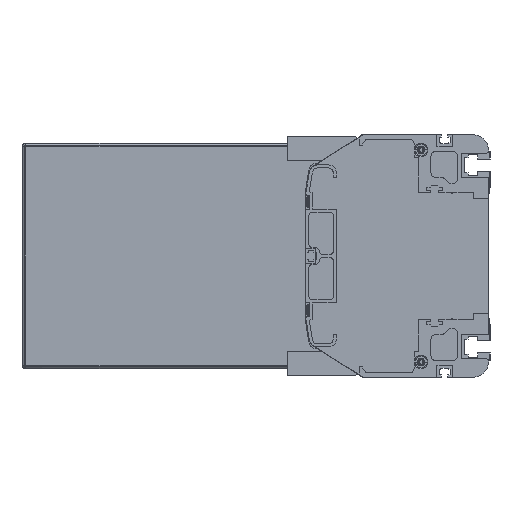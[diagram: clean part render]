
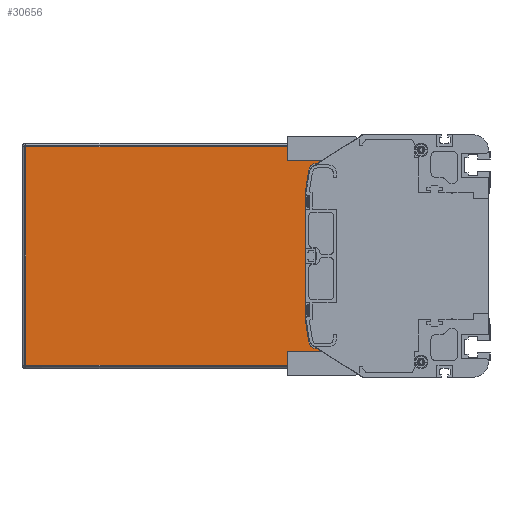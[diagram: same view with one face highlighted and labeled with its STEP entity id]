
A CAD part, left-side view. The second image highlights one B-rep face of the part: STEP entity #30656.
In plain terms, the highlighted planar face has unit normal (-1, 0, 0).
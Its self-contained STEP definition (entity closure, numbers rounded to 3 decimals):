
#726=DIRECTION('',(0.,-1.,0.));
#727=VECTOR('',#726,220.5);
#728=CARTESIAN_POINT('',(986.5,306.5,-72.));
#729=LINE('',#728,#727);
#5154=DIRECTION('',(0.,-1.,0.));
#5155=VECTOR('',#5154,28.728);
#5156=CARTESIAN_POINT('',(986.5,114.728,61.));
#5157=LINE('',#5156,#5155);
#5200=DIRECTION('',(0.,1.,0.));
#5201=VECTOR('',#5200,28.728);
#5202=CARTESIAN_POINT('',(986.5,86.,-61.));
#5203=LINE('',#5202,#5201);
#5213=DIRECTION('',(0.,0.,-1.));
#5214=VECTOR('',#5213,11.);
#5215=CARTESIAN_POINT('',(986.5,86.,-61.));
#5216=LINE('',#5215,#5214);
#5222=DIRECTION('',(0.,0.,-1.));
#5223=VECTOR('',#5222,11.);
#5224=CARTESIAN_POINT('',(986.5,86.,72.));
#5225=LINE('',#5224,#5223);
#11244=CARTESIAN_POINT('',(986.5,114.728,56.));
#11245=DIRECTION('',(-1.,0.,0.));
#11246=DIRECTION('',(0.,0.,1.));
#11247=AXIS2_PLACEMENT_3D('',#11244,#11245,#11246);
#11249=DIRECTION('',(0.,0.156,-0.988));
#11250=VECTOR('',#11249,14.963);
#11251=CARTESIAN_POINT('',(986.5,119.666,56.78));
#11252=LINE('',#11251,#11250);
#11253=DIRECTION('',(0.,-0.156,-0.988));
#11254=VECTOR('',#11253,14.963);
#11255=CARTESIAN_POINT('',(986.5,122.,-42.));
#11256=LINE('',#11255,#11254);
#11257=CARTESIAN_POINT('',(986.5,114.728,-56.));
#11258=DIRECTION('',(-1.,0.,0.));
#11259=DIRECTION('',(0.,0.988,-0.156));
#11260=AXIS2_PLACEMENT_3D('',#11257,#11258,#11259);
#11266=DIRECTION('',(0.,0.,-1.));
#11267=VECTOR('',#11266,144.);
#11268=CARTESIAN_POINT('',(986.5,306.5,72.));
#11269=LINE('',#11268,#11267);
#11356=DIRECTION('',(0.,1.,0.));
#11357=VECTOR('',#11356,220.5);
#11358=CARTESIAN_POINT('',(986.5,86.,72.));
#11359=LINE('',#11358,#11357);
#11647=DIRECTION('',(0.,0.,1.));
#11648=VECTOR('',#11647,84.);
#11649=CARTESIAN_POINT('',(986.5,122.,-42.));
#11650=LINE('',#11649,#11648);
#13610=CARTESIAN_POINT('',(986.5,306.5,-72.));
#13611=CARTESIAN_POINT('',(986.5,86.,-72.));
#13612=VERTEX_POINT('',#13610);
#13613=VERTEX_POINT('',#13611);
#13614=CARTESIAN_POINT('',(986.5,86.,-61.));
#13615=VERTEX_POINT('',#13614);
#13616=CARTESIAN_POINT('',(986.5,114.728,-61.));
#13617=VERTEX_POINT('',#13616);
#13618=CARTESIAN_POINT('',(986.5,119.666,-56.78));
#13619=VERTEX_POINT('',#13618);
#13620=CARTESIAN_POINT('',(986.5,122.,-42.));
#13621=VERTEX_POINT('',#13620);
#13622=CARTESIAN_POINT('',(986.5,122.,42.));
#13623=VERTEX_POINT('',#13622);
#13624=CARTESIAN_POINT('',(986.5,119.666,56.78));
#13625=VERTEX_POINT('',#13624);
#13626=CARTESIAN_POINT('',(986.5,114.728,61.));
#13627=VERTEX_POINT('',#13626);
#13628=CARTESIAN_POINT('',(986.5,86.,61.));
#13629=VERTEX_POINT('',#13628);
#13630=CARTESIAN_POINT('',(986.5,86.,72.));
#13631=VERTEX_POINT('',#13630);
#13632=CARTESIAN_POINT('',(986.5,306.5,72.));
#13633=VERTEX_POINT('',#13632);
#30630=CARTESIAN_POINT('',(986.5,196.25,0.));
#30631=DIRECTION('',(1.,0.,0.));
#30632=DIRECTION('',(0.,0.,-1.));
#30633=AXIS2_PLACEMENT_3D('',#30630,#30631,#30632);
#30634=PLANE('',#30633);
#30635=ORIENTED_EDGE('',*,*,#17567,.F.);
#30637=ORIENTED_EDGE('',*,*,#30636,.F.);
#30639=ORIENTED_EDGE('',*,*,#30638,.F.);
#30640=ORIENTED_EDGE('',*,*,#22288,.T.);
#30641=ORIENTED_EDGE('',*,*,#22195,.F.);
#30643=ORIENTED_EDGE('',*,*,#30642,.T.);
#30645=ORIENTED_EDGE('',*,*,#30644,.T.);
#30647=ORIENTED_EDGE('',*,*,#30646,.F.);
#30649=ORIENTED_EDGE('',*,*,#30648,.T.);
#30651=ORIENTED_EDGE('',*,*,#30650,.T.);
#30652=ORIENTED_EDGE('',*,*,#22246,.F.);
#30653=ORIENTED_EDGE('',*,*,#22262,.T.);
#30654=EDGE_LOOP('',(#30635,#30637,#30639,#30640,#30641,#30643,#30645,#30647,
#30649,#30651,#30652,#30653));
#30655=FACE_OUTER_BOUND('',#30654,.F.);
#30656=ADVANCED_FACE('',(#30655),#30634,.F.);
#11248=CIRCLE('',#11247,5.);
#11261=CIRCLE('',#11260,5.);
#17567=EDGE_CURVE('',#13612,#13613,#729,.T.);
#22195=EDGE_CURVE('',#13627,#13629,#5157,.T.);
#22246=EDGE_CURVE('',#13615,#13617,#5203,.T.);
#22262=EDGE_CURVE('',#13615,#13613,#5216,.T.);
#22288=EDGE_CURVE('',#13631,#13629,#5225,.T.);
#30636=EDGE_CURVE('',#13633,#13612,#11269,.T.);
#30638=EDGE_CURVE('',#13631,#13633,#11359,.T.);
#30642=EDGE_CURVE('',#13627,#13625,#11248,.T.);
#30644=EDGE_CURVE('',#13625,#13623,#11252,.T.);
#30646=EDGE_CURVE('',#13621,#13623,#11650,.T.);
#30648=EDGE_CURVE('',#13621,#13619,#11256,.T.);
#30650=EDGE_CURVE('',#13619,#13617,#11261,.T.);
